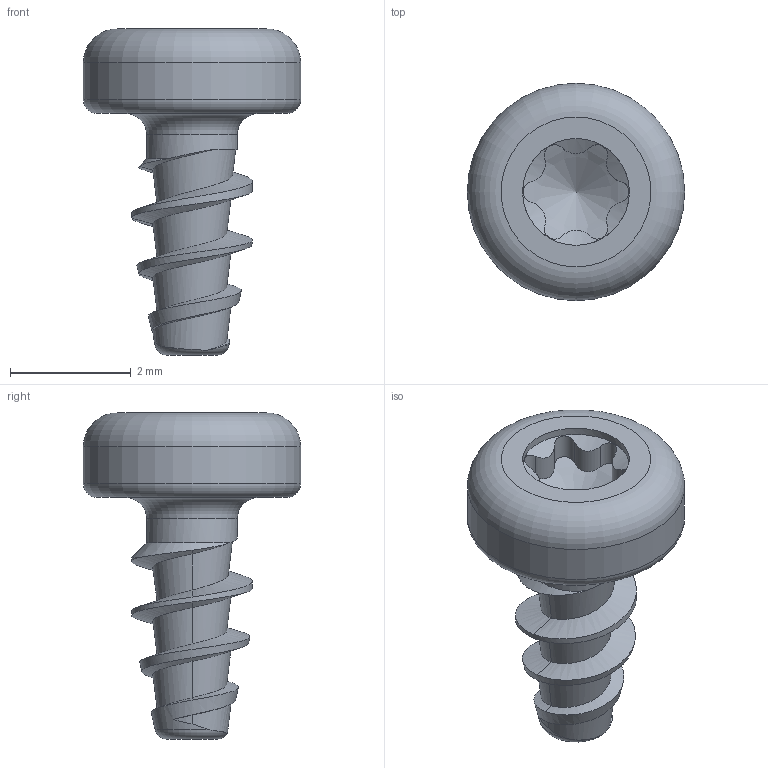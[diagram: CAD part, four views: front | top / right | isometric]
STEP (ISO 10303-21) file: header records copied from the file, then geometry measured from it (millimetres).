
FILE_DESCRIPTION(/* description */ (''),/* implementation_level */ '2;1');
FILE_NAME(/* name */ 'KN1039-STS-20x4-T6.step',/* time_stamp */ '2017-10-12T16:11:19+02:00',/* author */ (''),/* organization */ (''),/* preprocessor_version */ 'ST-DEVELOPER v16',/* originating_system */ 'SIEMENS PLM Software NX 10.0',/* authorisation */ '');
FILE_SCHEMA (('AUTOMOTIVE_DESIGN { 1 0 10303 214 3 1 1 1 }'));
Length unit declared in the file: millimetre
Products named in the file (1): KN1039-STS-20x4-T6
Bounding box: 3.6 x 3.6 x 5.4 mm (x, y, z)
Volume: 18.2 mm3; surface area: 58.6 mm2
Topology: 1 solids, 1 shells, 42 faces, 107 edges, 68 vertices
Faces by surface type: cylinder 16, bspline 14, cone 4, torus 4, plane 4
Full cylindrical faces by diameter (mm): 1.5 x1, 1.77 x1, 3.6 x1
Entity records: 2384 total; most frequent: CARTESIAN_POINT 1560, ORIENTED_EDGE 184, DIRECTION 109, EDGE_CURVE 92, VERTEX_POINT 63, B_SPLINE_CURVE_WITH_KNOTS 55, EDGE_LOOP 52, AXIS2_PLACEMENT_3D 43
